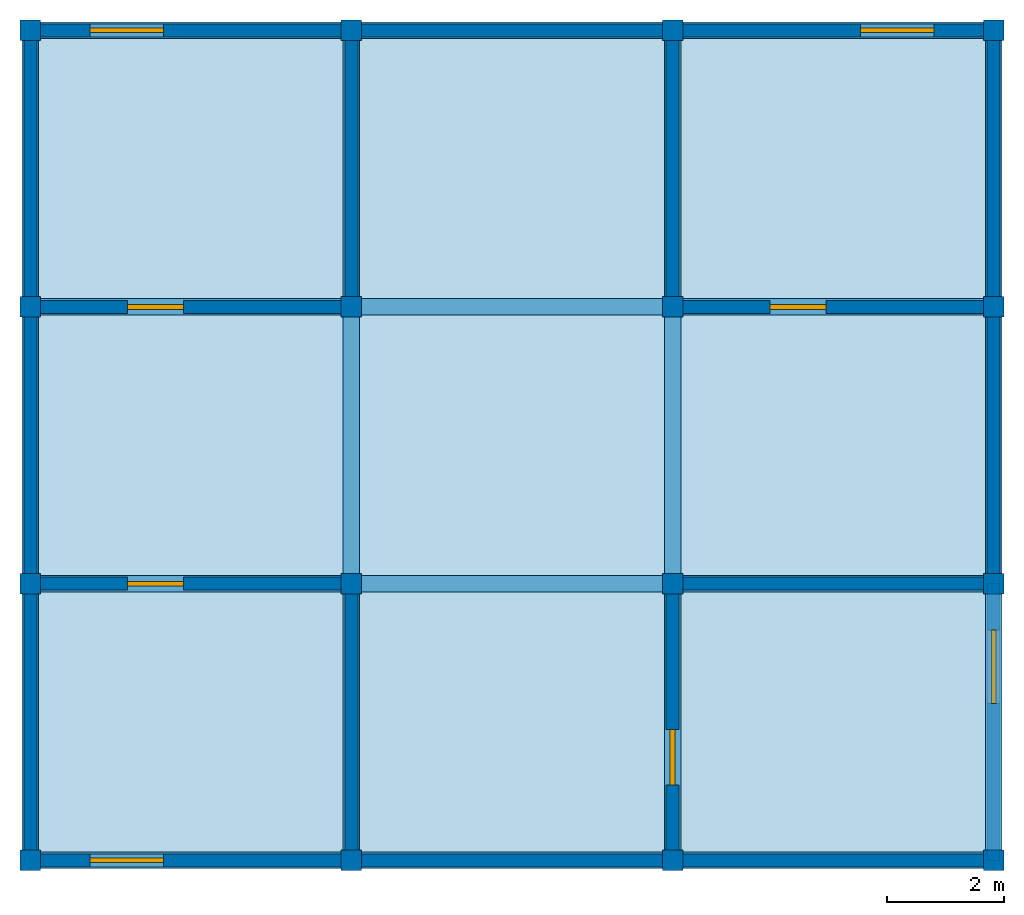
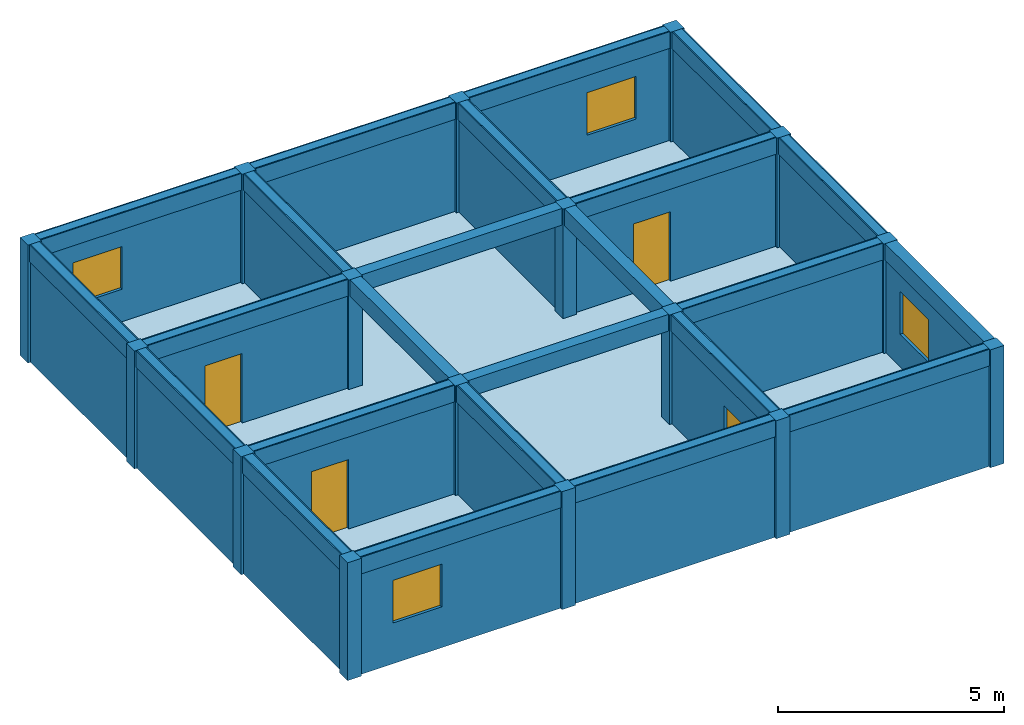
# One storey: 24 beams, 20 walls, 16 columns, 4 doors, 4 windows, 1 slab, 8 openings.
"""IFC4X3 building model written with IfcOpenShell, lengths in metres."""

from ifc_helpers import new_model, si_unit, frame, origin_with_axes, origin_2d, place, context, project, spatial, rectangle, extrude, material, element, fill, save


model = new_model("IFC4X3")

# Units and contexts
model_context = context("Model", 3, precision=1e-05, world=origin_with_axes())
ifc_project = project(units=[si_unit("LENGTHUNIT", "METRE"), si_unit("AREAUNIT", "SQUARE_METRE"), si_unit("VOLUMEUNIT", "CUBIC_METRE")], contexts=[model_context])

# Site, building, storey
site = spatial("IfcSite", under=ifc_project, Name="Antofagasta Parcel", CompositionType="ELEMENT")
building = spatial("IfcBuilding", under=site, Name="Nexo Block", CompositionType="ELEMENT")
storey = spatial("IfcBuildingStorey", under=building, Name="Level 7", CompositionType="ELEMENT", Elevation=19.09)

# Columns
ifc_material_1 = material(Name="Timber")
column_1_placement = place(None, frame((-8.2, -7.065, 19.085), z_axis=(0.0, 0.0, 1.0), x_axis=(1.0, 0.0, 0.0)))
element("IfcColumn", 1, at=column_1_placement, inside=storey, material=ifc_material_1, Name="Column 7.1", ObjectType="Facade Column", PredefinedType="NOTDEFINED", context=model_context, shape_type="SweptSolid", body=[
    extrude(rectangle(XDim=0.35, YDim=0.35, at=origin_2d()), origin_with_axes(), (0.0, 0.0, 1.0), 3.181),
])
column_2_placement = place(None, frame((-8.2, -2.355, 19.085), z_axis=(0.0, 0.0, 1.0), x_axis=(1.0, 0.0, 0.0)))
element("IfcColumn", 2, at=column_2_placement, inside=storey, material=ifc_material_1, Name="Column 7.2", ObjectType="Core Column", PredefinedType="USERDEFINED", context=model_context, shape_type="SweptSolid", body=[
    extrude(rectangle(XDim=0.35, YDim=0.35, at=origin_2d()), origin_with_axes(), (0.0, 0.0, 1.0), 3.181),
])
column_3_placement = place(None, frame((-8.2, 2.355, 19.085), z_axis=(0.0, 0.0, 1.0), x_axis=(1.0, 0.0, 0.0)))
element("IfcColumn", 3, at=column_3_placement, inside=storey, material=ifc_material_1, Name="Column 7.3", ObjectType="Facade Column", PredefinedType="USERDEFINED", context=model_context, shape_type="SweptSolid", body=[
    extrude(rectangle(XDim=0.35, YDim=0.35, at=origin_2d()), origin_with_axes(), (0.0, 0.0, 1.0), 3.181),
])
column_4_placement = place(None, frame((-8.2, 7.065, 19.085), z_axis=(0.0, 0.0, 1.0), x_axis=(1.0, 0.0, 0.0)))
element("IfcColumn", 4, at=column_4_placement, inside=storey, material=ifc_material_1, Name="Column 7.4", ObjectType="Corner Column", PredefinedType="NOTDEFINED", context=model_context, shape_type="SweptSolid", body=[
    extrude(rectangle(XDim=0.35, YDim=0.35, at=origin_2d()), origin_with_axes(), (0.0, 0.0, 1.0), 3.181),
])
column_5_placement = place(None, frame((-2.733, -7.065, 19.085), z_axis=(0.0, 0.0, 1.0), x_axis=(1.0, 0.0, 0.0)))
element("IfcColumn", 5, at=column_5_placement, inside=storey, material=ifc_material_1, Name="Column 7.5", ObjectType="Structural Column", PredefinedType="USERDEFINED", context=model_context, shape_type="SweptSolid", body=[
    extrude(rectangle(XDim=0.35, YDim=0.35, at=origin_2d()), origin_with_axes(), (0.0, 0.0, 1.0), 3.181),
])
column_6_placement = place(None, frame((-2.733, -2.355, 19.085), z_axis=(0.0, 0.0, 1.0), x_axis=(1.0, 0.0, 0.0)))
element("IfcColumn", 6, at=column_6_placement, inside=storey, material=ifc_material_1, Name="Column 7.6", ObjectType="Core Column", PredefinedType="PILASTER", context=model_context, shape_type="SweptSolid", body=[
    extrude(rectangle(XDim=0.35, YDim=0.35, at=origin_2d()), origin_with_axes(), (0.0, 0.0, 1.0), 3.181),
])
column_7_placement = place(None, frame((-2.733, 2.355, 19.085), z_axis=(0.0, 0.0, 1.0), x_axis=(1.0, 0.0, 0.0)))
element("IfcColumn", 7, at=column_7_placement, inside=storey, material=ifc_material_1, Name="Column 7.7", ObjectType="Corner Column", PredefinedType="COLUMN", context=model_context, shape_type="SweptSolid", body=[
    extrude(rectangle(XDim=0.35, YDim=0.35, at=origin_2d()), origin_with_axes(), (0.0, 0.0, 1.0), 3.181),
])
column_8_placement = place(None, frame((-2.733, 7.065, 19.085), z_axis=(0.0, 0.0, 1.0), x_axis=(1.0, 0.0, 0.0)))
element("IfcColumn", 8, at=column_8_placement, inside=storey, material=ifc_material_1, Name="Column 7.8", ObjectType="Structural Column", PredefinedType="COLUMN", context=model_context, shape_type="SweptSolid", body=[
    extrude(rectangle(XDim=0.35, YDim=0.35, at=origin_2d()), origin_with_axes(), (0.0, 0.0, 1.0), 3.181),
])
for number, where, z_axis, x_axis, name in (
    (9, (2.734, -7.065, 19.085), (0.0, 0.0, 1.0), (1.0, 0.0, 0.0), "Column 7.9"),
    (10, (2.734, -2.355, 19.085), (0.0, 0.0, 1.0), (1.0, 0.0, 0.0), "Column 7.10"),
    (11, (2.734, 2.355, 19.085), (0.0, 0.0, 1.0), (1.0, 0.0, 0.0), "Column 7.11"),
):
    element("IfcColumn", number, at=place(None, frame(where, z_axis=z_axis, x_axis=x_axis)), inside=storey, material=ifc_material_1, Name=name, ObjectType="Corner Column", PredefinedType="PILASTER", context=model_context, shape_type="SweptSolid", body=[
        extrude(rectangle(XDim=0.35, YDim=0.35, at=origin_2d()), origin_with_axes(), (0.0, 0.0, 1.0), 3.181),
    ])
column_9_placement = place(None, frame((2.734, 7.065, 19.085), z_axis=(0.0, 0.0, 1.0), x_axis=(1.0, 0.0, 0.0)))
element("IfcColumn", 12, at=column_9_placement, inside=storey, material=ifc_material_1, Name="Column 7.12", ObjectType="Core Column", PredefinedType="NOTDEFINED", context=model_context, shape_type="SweptSolid", body=[
    extrude(rectangle(XDim=0.35, YDim=0.35, at=origin_2d()), origin_with_axes(), (0.0, 0.0, 1.0), 3.181),
])
column_10_placement = place(None, frame((8.201, -7.065, 19.085), z_axis=(0.0, 0.0, 1.0), x_axis=(1.0, 0.0, 0.0)))
element("IfcColumn", 13, at=column_10_placement, inside=storey, material=ifc_material_1, Name="Column 7.13", ObjectType="Core Column", PredefinedType="USERDEFINED", context=model_context, shape_type="SweptSolid", body=[
    extrude(rectangle(XDim=0.35, YDim=0.35, at=origin_2d()), origin_with_axes(), (0.0, 0.0, 1.0), 3.181),
])
column_11_placement = place(None, frame((8.201, -2.355, 19.085), z_axis=(0.0, 0.0, 1.0), x_axis=(1.0, 0.0, 0.0)))
element("IfcColumn", 14, at=column_11_placement, inside=storey, material=ifc_material_1, Name="Column 7.14", ObjectType="Core Column", PredefinedType="COLUMN", context=model_context, shape_type="SweptSolid", body=[
    extrude(rectangle(XDim=0.35, YDim=0.35, at=origin_2d()), origin_with_axes(), (0.0, 0.0, 1.0), 3.181),
])
column_12_placement = place(None, frame((8.201, 2.355, 19.085), z_axis=(0.0, 0.0, 1.0), x_axis=(1.0, 0.0, 0.0)))
element("IfcColumn", 15, at=column_12_placement, inside=storey, material=ifc_material_1, Name="Column 7.15", ObjectType="Structural Column", PredefinedType="NOTDEFINED", context=model_context, shape_type="SweptSolid", body=[
    extrude(rectangle(XDim=0.35, YDim=0.35, at=origin_2d()), origin_with_axes(), (0.0, 0.0, 1.0), 3.181),
])
column_13_placement = place(None, frame((8.201, 7.065, 19.085), z_axis=(0.0, 0.0, 1.0), x_axis=(1.0, 0.0, 0.0)))
element("IfcColumn", 16, at=column_13_placement, inside=storey, material=ifc_material_1, Name="Column 7.16", ObjectType="Core Column", PredefinedType="COLUMN", context=model_context, shape_type="SweptSolid", body=[
    extrude(rectangle(XDim=0.35, YDim=0.35, at=origin_2d()), origin_with_axes(), (0.0, 0.0, 1.0), 3.181),
])

# Beams
beam_1_placement = place(None, frame((-5.466, -7.065, 21.816), z_axis=(0.0, 0.0, 1.0), x_axis=(1.0, 0.0, 0.0)))
element("IfcBeam", 17, at=beam_1_placement, inside=storey, material=ifc_material_1, Name="Beam 7.1", ObjectType="Rafter Beam", PredefinedType="SPANDREL", context=model_context, shape_type="SweptSolid", body=[
    extrude(rectangle(XDim=5.467, YDim=0.28, at=origin_2d()), origin_with_axes(), (0.0, 0.0, 1.0), 0.45),
])
beam_2_placement = place(None, frame((0.0, -7.065, 21.816), z_axis=(0.0, 0.0, 1.0), x_axis=(1.0, 0.0, 0.0)))
element("IfcBeam", 18, at=beam_2_placement, inside=storey, material=ifc_material_1, Name="Beam 7.2", ObjectType="Primary Beam", PredefinedType="SPANDREL", context=model_context, shape_type="SweptSolid", body=[
    extrude(rectangle(XDim=5.467, YDim=0.28, at=origin_2d()), origin_with_axes(), (0.0, 0.0, 1.0), 0.45),
])
beam_3_placement = place(None, frame((5.468, -7.065, 21.816), z_axis=(0.0, 0.0, 1.0), x_axis=(1.0, 0.0, 0.0)))
element("IfcBeam", 19, at=beam_3_placement, inside=storey, material=ifc_material_1, Name="Beam 7.3", ObjectType="Ridge Beam", PredefinedType="T_BEAM", context=model_context, shape_type="SweptSolid", body=[
    extrude(rectangle(XDim=5.467, YDim=0.28, at=origin_2d()), origin_with_axes(), (0.0, 0.0, 1.0), 0.45),
])
beam_4_placement = place(None, frame((-5.466, -2.355, 21.816), z_axis=(0.0, 0.0, 1.0), x_axis=(1.0, 0.0, 0.0)))
element("IfcBeam", 20, at=beam_4_placement, inside=storey, material=ifc_material_1, Name="Beam 7.4", ObjectType="Primary Beam", PredefinedType="HOLLOWCORE", context=model_context, shape_type="SweptSolid", body=[
    extrude(rectangle(XDim=5.467, YDim=0.28, at=origin_2d()), origin_with_axes(), (0.0, 0.0, 1.0), 0.45),
])
beam_5_placement = place(None, frame((0.0, -2.355, 21.816), z_axis=(0.0, 0.0, 1.0), x_axis=(1.0, 0.0, 0.0)))
element("IfcBeam", 21, at=beam_5_placement, inside=storey, material=ifc_material_1, Name="Beam 7.5", ObjectType="Transfer Beam", PredefinedType="SPANDREL", context=model_context, shape_type="SweptSolid", body=[
    extrude(rectangle(XDim=5.467, YDim=0.28, at=origin_2d()), origin_with_axes(), (0.0, 0.0, 1.0), 0.45),
])
beam_6_placement = place(None, frame((5.468, -2.355, 21.816), z_axis=(0.0, 0.0, 1.0), x_axis=(1.0, 0.0, 0.0)))
element("IfcBeam", 22, at=beam_6_placement, inside=storey, material=ifc_material_1, Name="Beam 7.6", ObjectType="Ridge Beam", PredefinedType="HOLLOWCORE", context=model_context, shape_type="SweptSolid", body=[
    extrude(rectangle(XDim=5.467, YDim=0.28, at=origin_2d()), origin_with_axes(), (0.0, 0.0, 1.0), 0.45),
])
beam_7_placement = place(None, frame((-5.466, 2.355, 21.816), z_axis=(0.0, 0.0, 1.0), x_axis=(1.0, 0.0, 0.0)))
element("IfcBeam", 23, at=beam_7_placement, inside=storey, material=ifc_material_1, Name="Beam 7.7", ObjectType="Transfer Beam", PredefinedType="JOIST", context=model_context, shape_type="SweptSolid", body=[
    extrude(rectangle(XDim=5.467, YDim=0.28, at=origin_2d()), origin_with_axes(), (0.0, 0.0, 1.0), 0.45),
])
beam_8_placement = place(None, frame((0.0, 2.355, 21.816), z_axis=(0.0, 0.0, 1.0), x_axis=(1.0, 0.0, 0.0)))
element("IfcBeam", 24, at=beam_8_placement, inside=storey, material=ifc_material_1, Name="Beam 7.8", ObjectType="Primary Beam", PredefinedType="USERDEFINED", context=model_context, shape_type="SweptSolid", body=[
    extrude(rectangle(XDim=5.467, YDim=0.28, at=origin_2d()), origin_with_axes(), (0.0, 0.0, 1.0), 0.45),
])
beam_9_placement = place(None, frame((5.468, 2.355, 21.816), z_axis=(0.0, 0.0, 1.0), x_axis=(1.0, 0.0, 0.0)))
element("IfcBeam", 25, at=beam_9_placement, inside=storey, material=ifc_material_1, Name="Beam 7.9", ObjectType="Primary Beam", PredefinedType="SPANDREL", context=model_context, shape_type="SweptSolid", body=[
    extrude(rectangle(XDim=5.467, YDim=0.28, at=origin_2d()), origin_with_axes(), (0.0, 0.0, 1.0), 0.45),
])
beam_10_placement = place(None, frame((-5.466, 7.065, 21.816), z_axis=(0.0, 0.0, 1.0), x_axis=(1.0, 0.0, 0.0)))
element("IfcBeam", 26, at=beam_10_placement, inside=storey, material=ifc_material_1, Name="Beam 7.10", ObjectType="Primary Beam", PredefinedType="T_BEAM", context=model_context, shape_type="SweptSolid", body=[
    extrude(rectangle(XDim=5.467, YDim=0.28, at=origin_2d()), origin_with_axes(), (0.0, 0.0, 1.0), 0.45),
])
beam_11_placement = place(None, frame((0.0, 7.065, 21.816), z_axis=(0.0, 0.0, 1.0), x_axis=(1.0, 0.0, 0.0)))
element("IfcBeam", 27, at=beam_11_placement, inside=storey, material=ifc_material_1, Name="Beam 7.11", ObjectType="Transfer Beam", PredefinedType="NOTDEFINED", context=model_context, shape_type="SweptSolid", body=[
    extrude(rectangle(XDim=5.467, YDim=0.28, at=origin_2d()), origin_with_axes(), (0.0, 0.0, 1.0), 0.45),
])
beam_12_placement = place(None, frame((5.468, 7.065, 21.816), z_axis=(0.0, 0.0, 1.0), x_axis=(1.0, 0.0, 0.0)))
element("IfcBeam", 28, at=beam_12_placement, inside=storey, material=ifc_material_1, Name="Beam 7.12", ObjectType="Rafter Beam", PredefinedType="HOLLOWCORE", context=model_context, shape_type="SweptSolid", body=[
    extrude(rectangle(XDim=5.467, YDim=0.28, at=origin_2d()), origin_with_axes(), (0.0, 0.0, 1.0), 0.45),
])
beam_13_placement = place(None, frame((-8.2, -4.71, 21.816), z_axis=(0.0, 0.0, 1.0), x_axis=(0.0, 1.0, 0.0)))
element("IfcBeam", 29, at=beam_13_placement, inside=storey, material=ifc_material_1, Name="Beam 7.13", ObjectType="Secondary Beam", PredefinedType="NOTDEFINED", context=model_context, shape_type="SweptSolid", body=[
    extrude(rectangle(XDim=4.71, YDim=0.28, at=origin_2d()), origin_with_axes(), (0.0, 0.0, 1.0), 0.45),
])
beam_14_placement = place(None, frame((-8.2, 0.0, 21.816), z_axis=(0.0, 0.0, 1.0), x_axis=(0.0, 1.0, 0.0)))
element("IfcBeam", 30, at=beam_14_placement, inside=storey, material=ifc_material_1, Name="Beam 7.14", ObjectType="Primary Beam", PredefinedType="USERDEFINED", context=model_context, shape_type="SweptSolid", body=[
    extrude(rectangle(XDim=4.71, YDim=0.28, at=origin_2d()), origin_with_axes(), (0.0, 0.0, 1.0), 0.45),
])
beam_15_placement = place(None, frame((-8.2, 4.71, 21.816), z_axis=(0.0, 0.0, 1.0), x_axis=(0.0, 1.0, 0.0)))
element("IfcBeam", 31, at=beam_15_placement, inside=storey, material=ifc_material_1, Name="Beam 7.15", ObjectType="Ridge Beam", PredefinedType="NOTDEFINED", context=model_context, shape_type="SweptSolid", body=[
    extrude(rectangle(XDim=4.71, YDim=0.28, at=origin_2d()), origin_with_axes(), (0.0, 0.0, 1.0), 0.45),
])
beam_16_placement = place(None, frame((-2.733, -4.71, 21.816), z_axis=(0.0, 0.0, 1.0), x_axis=(0.0, 1.0, 0.0)))
element("IfcBeam", 32, at=beam_16_placement, inside=storey, material=ifc_material_1, Name="Beam 7.16", ObjectType="Ridge Beam", PredefinedType="SPANDREL", context=model_context, shape_type="SweptSolid", body=[
    extrude(rectangle(XDim=4.71, YDim=0.28, at=origin_2d()), origin_with_axes(), (0.0, 0.0, 1.0), 0.45),
])
beam_17_placement = place(None, frame((-2.733, 0.0, 21.816), z_axis=(0.0, 0.0, 1.0), x_axis=(0.0, 1.0, 0.0)))
element("IfcBeam", 33, at=beam_17_placement, inside=storey, material=ifc_material_1, Name="Beam 7.17", ObjectType="Transfer Beam", PredefinedType="LINTEL", context=model_context, shape_type="SweptSolid", body=[
    extrude(rectangle(XDim=4.71, YDim=0.28, at=origin_2d()), origin_with_axes(), (0.0, 0.0, 1.0), 0.45),
])
beam_18_placement = place(None, frame((-2.733, 4.71, 21.816), z_axis=(0.0, 0.0, 1.0), x_axis=(0.0, 1.0, 0.0)))
element("IfcBeam", 34, at=beam_18_placement, inside=storey, material=ifc_material_1, Name="Beam 7.18", ObjectType="Primary Beam", PredefinedType="BEAM", context=model_context, shape_type="SweptSolid", body=[
    extrude(rectangle(XDim=4.71, YDim=0.28, at=origin_2d()), origin_with_axes(), (0.0, 0.0, 1.0), 0.45),
])
beam_19_placement = place(None, frame((2.734, -4.71, 21.816), z_axis=(0.0, 0.0, 1.0), x_axis=(0.0, 1.0, 0.0)))
element("IfcBeam", 35, at=beam_19_placement, inside=storey, material=ifc_material_1, Name="Beam 7.19", ObjectType="Primary Beam", PredefinedType="HOLLOWCORE", context=model_context, shape_type="SweptSolid", body=[
    extrude(rectangle(XDim=4.71, YDim=0.28, at=origin_2d()), origin_with_axes(), (0.0, 0.0, 1.0), 0.45),
])
beam_20_placement = place(None, frame((2.734, 0.0, 21.816), z_axis=(0.0, 0.0, 1.0), x_axis=(0.0, 1.0, 0.0)))
element("IfcBeam", 36, at=beam_20_placement, inside=storey, material=ifc_material_1, Name="Beam 7.20", ObjectType="Ridge Beam", PredefinedType="NOTDEFINED", context=model_context, shape_type="SweptSolid", body=[
    extrude(rectangle(XDim=4.71, YDim=0.28, at=origin_2d()), origin_with_axes(), (0.0, 0.0, 1.0), 0.45),
])
beam_21_placement = place(None, frame((2.734, 4.71, 21.816), z_axis=(0.0, 0.0, 1.0), x_axis=(0.0, 1.0, 0.0)))
element("IfcBeam", 37, at=beam_21_placement, inside=storey, material=ifc_material_1, Name="Beam 7.21", ObjectType="Primary Beam", PredefinedType="T_BEAM", context=model_context, shape_type="SweptSolid", body=[
    extrude(rectangle(XDim=4.71, YDim=0.28, at=origin_2d()), origin_with_axes(), (0.0, 0.0, 1.0), 0.45),
])
beam_22_placement = place(None, frame((8.201, -4.71, 21.816), z_axis=(0.0, 0.0, 1.0), x_axis=(0.0, 1.0, 0.0)))
element("IfcBeam", 38, at=beam_22_placement, inside=storey, material=ifc_material_1, Name="Beam 7.22", ObjectType="Rafter Beam", PredefinedType="JOIST", context=model_context, shape_type="SweptSolid", body=[
    extrude(rectangle(XDim=4.71, YDim=0.28, at=origin_2d()), origin_with_axes(), (0.0, 0.0, 1.0), 0.45),
])
beam_23_placement = place(None, frame((8.201, 0.0, 21.816), z_axis=(0.0, 0.0, 1.0), x_axis=(0.0, 1.0, 0.0)))
element("IfcBeam", 39, at=beam_23_placement, inside=storey, material=ifc_material_1, Name="Beam 7.23", ObjectType="Rafter Beam", PredefinedType="NOTDEFINED", context=model_context, shape_type="SweptSolid", body=[
    extrude(rectangle(XDim=4.71, YDim=0.28, at=origin_2d()), origin_with_axes(), (0.0, 0.0, 1.0), 0.45),
])
beam_24_placement = place(None, frame((8.201, 4.71, 21.816), z_axis=(0.0, 0.0, 1.0), x_axis=(0.0, 1.0, 0.0)))
element("IfcBeam", 40, at=beam_24_placement, inside=storey, material=ifc_material_1, Name="Beam 7.24", ObjectType="Primary Beam", PredefinedType="LINTEL", context=model_context, shape_type="SweptSolid", body=[
    extrude(rectangle(XDim=4.71, YDim=0.28, at=origin_2d()), origin_with_axes(), (0.0, 0.0, 1.0), 0.45),
])

# Slab
slab_placement = place(None, frame((0.0, 0.0, 19.09), z_axis=(0.0, 0.0, 1.0), x_axis=(1.0, 0.0, 0.0)))
element("IfcSlab", 41, at=slab_placement, inside=storey, material=ifc_material_1, Name="Slab 7", ObjectType="Floor Slab", PredefinedType="FLOOR", context=model_context, shape_type="SweptSolid", body=[
    extrude(rectangle(XDim=16.4, YDim=14.13, at=origin_2d()), origin_with_axes(), (0.0, 0.0, 1.0), 0.22),
])

# Wall, opening, door
ifc_material_2 = material(Name="CLT")
wall_1_placement = place(None, frame((-5.466, -2.355, 19.085), z_axis=(0.0, 0.0, 1.0), x_axis=(1.0, 0.0, 0.0)))
wall_1 = element("IfcWall", 42, at=wall_1_placement, inside=storey, material=ifc_material_2, Name="Wall 7.1", ObjectType="Corridor Partition", PredefinedType="POLYGONAL", context=model_context, shape_type="SweptSolid", body=[
    extrude(rectangle(XDim=5.467, YDim=0.221577, at=origin_2d()), origin_with_axes(), (0.0, 0.0, 1.0), 3.181),
])
opening_1_placement = place(None, frame((-6.066, -2.355, 19.085), z_axis=(0.0, 0.0, 1.0), x_axis=(1.0, 0.0, 0.0)))
opening_1 = element("IfcOpeningElement", 43, at=opening_1_placement, cuts=wall_1, Name="Door opening 7.1", ObjectType="Door Opening", PredefinedType="OPENING", context=model_context, shape_type="SweptSolid", body=[
    extrude(rectangle(XDim=0.95, YDim=0.301577, at=origin_2d()), origin_with_axes(), (0.0, 0.0, 1.0), 2.1),
])
door_1_placement = place(None, frame((-6.066, -2.355, 19.085), z_axis=(0.0, 0.0, 1.0), x_axis=(1.0, 0.0, 0.0)))
door_1 = element("IfcDoor", 44, at=door_1_placement, inside=storey, Name="Door 7.1", ObjectType="Interior Door", OverallHeight=2.1, OverallWidth=0.95, context=model_context, shape_type="SweptSolid", body=[
    extrude(rectangle(XDim=0.95, YDim=0.08, at=origin_2d()), origin_with_axes(), (0.0, 0.0, 1.0), 2.1),
])
fill(opening_1, door_1)

# Wall
ifc_material_3 = material(Name="Concrete")
wall_2_placement = place(None, frame((-2.7325, -4.71, 19.085), z_axis=(0.0, 0.0, 1.0), x_axis=(0.0, 1.0, 0.0)))
element("IfcWall", 45, at=wall_2_placement, inside=storey, material=ifc_material_3, Name="Wall 7.2", ObjectType="Corridor Partition", PredefinedType="ELEMENTEDWALL", context=model_context, shape_type="SweptSolid", body=[
    extrude(rectangle(XDim=4.71, YDim=0.221577, at=origin_2d()), origin_with_axes(), (0.0, 0.0, 1.0), 3.181),
])

# Wall, opening, window
wall_3_placement = place(None, frame((-5.466, -7.065, 19.085), z_axis=(0.0, 0.0, 1.0), x_axis=(1.0, 0.0, 0.0)))
wall_3 = element("IfcWall", 46, at=wall_3_placement, inside=storey, material=ifc_material_3, Name="Wall 7.3", ObjectType="Exterior Wall", PredefinedType="PLUMBINGWALL", context=model_context, shape_type="SweptSolid", body=[
    extrude(rectangle(XDim=5.467, YDim=0.221577, at=origin_2d()), origin_with_axes(), (0.0, 0.0, 1.0), 3.181),
])
opening_2_placement = place(None, frame((-6.559, -7.065, 20.185), z_axis=(0.0, 0.0, 1.0), x_axis=(1.0, 0.0, 0.0)))
opening_2 = element("IfcOpeningElement", 47, at=opening_2_placement, cuts=wall_3, Name="Window opening 7.2", ObjectType="Window Opening", PredefinedType="OPENING", context=model_context, shape_type="SweptSolid", body=[
    extrude(rectangle(XDim=1.25, YDim=0.301577, at=origin_2d()), origin_with_axes(), (0.0, 0.0, 1.0), 1.15),
])
window_1_placement = place(None, frame((-6.559, -7.065, 20.185), z_axis=(0.0, 0.0, 1.0), x_axis=(1.0, 0.0, 0.0)))
window_1 = element("IfcWindow", 48, at=window_1_placement, inside=storey, Name="Window 7.2", ObjectType="Louvre Window", OverallHeight=1.15, OverallWidth=1.25, context=model_context, shape_type="SweptSolid", body=[
    extrude(rectangle(XDim=1.25, YDim=0.08, at=origin_2d()), origin_with_axes(), (0.0, 0.0, 1.0), 1.15),
])
fill(opening_2, window_1)

# Wall
ifc_material_4 = material(Name="Brick")
wall_4_placement = place(None, frame((-8.1995, -4.71, 19.085), z_axis=(0.0, 0.0, 1.0), x_axis=(0.0, 1.0, 0.0)))
element("IfcWall", 49, at=wall_4_placement, inside=storey, material=ifc_material_4, Name="Wall 7.4", ObjectType="Exterior Wall", PredefinedType="PLUMBINGWALL", context=model_context, shape_type="SweptSolid", body=[
    extrude(rectangle(XDim=4.71, YDim=0.221577, at=origin_2d()), origin_with_axes(), (0.0, 0.0, 1.0), 3.181),
])

# Wall, opening, door
wall_5_placement = place(None, frame((2.7335, -4.71, 19.085), z_axis=(0.0, 0.0, 1.0), x_axis=(0.0, 1.0, 0.0)))
wall_5 = element("IfcWall", 50, at=wall_5_placement, inside=storey, material=ifc_material_4, Name="Wall 7.5", ObjectType="Corridor Partition", PredefinedType="PARAPET", context=model_context, shape_type="SweptSolid", body=[
    extrude(rectangle(XDim=4.71, YDim=0.221577, at=origin_2d()), origin_with_axes(), (0.0, 0.0, 1.0), 3.181),
])
opening_3_placement = place(None, frame((2.733, -5.31, 19.085), z_axis=(0.0, 0.0, 1.0), x_axis=(0.0, 1.0, 0.0)))
opening_3 = element("IfcOpeningElement", 51, at=opening_3_placement, cuts=wall_5, Name="Door opening 7.3", ObjectType="Door Opening", PredefinedType="OPENING", context=model_context, shape_type="SweptSolid", body=[
    extrude(rectangle(XDim=0.95, YDim=0.301577, at=origin_2d()), origin_with_axes(), (0.0, 0.0, 1.0), 2.1),
])
door_2_placement = place(None, frame((2.733, -5.31, 19.085), z_axis=(0.0, 0.0, 1.0), x_axis=(0.0, 1.0, 0.0)))
door_2 = element("IfcDoor", 52, at=door_2_placement, inside=storey, Name="Door 7.3", ObjectType="Interior Door", OverallHeight=2.1, OverallWidth=0.95, context=model_context, shape_type="SweptSolid", body=[
    extrude(rectangle(XDim=0.95, YDim=0.08, at=origin_2d()), origin_with_axes(), (0.0, 0.0, 1.0), 2.1),
])
fill(opening_3, door_2)

# Walls
wall_6_placement = place(None, frame((0.0, -7.065, 19.085), z_axis=(0.0, 0.0, 1.0), x_axis=(1.0, 0.0, 0.0)))
element("IfcWall", 53, at=wall_6_placement, inside=storey, material=ifc_material_3, Name="Wall 7.6", ObjectType="Exterior Wall", PredefinedType="MOVABLE", context=model_context, shape_type="SweptSolid", body=[
    extrude(rectangle(XDim=5.467, YDim=0.221577, at=origin_2d()), origin_with_axes(), (0.0, 0.0, 1.0), 3.181),
])
ifc_material_5 = material(Name="Gypsum")
wall_7_placement = place(None, frame((5.467, -2.355, 19.085), z_axis=(0.0, 0.0, 1.0), x_axis=(1.0, 0.0, 0.0)))
element("IfcWall", 54, at=wall_7_placement, inside=storey, material=ifc_material_5, Name="Wall 7.7", ObjectType="Corridor Partition", PredefinedType="PARAPET", context=model_context, shape_type="SweptSolid", body=[
    extrude(rectangle(XDim=5.467, YDim=0.221577, at=origin_2d()), origin_with_axes(), (0.0, 0.0, 1.0), 3.181),
])

# Wall, opening, window
wall_8_placement = place(None, frame((8.2005, -4.71, 19.085), z_axis=(0.0, 0.0, 1.0), x_axis=(0.0, 1.0, 0.0)))
wall_8 = element("IfcWall", 55, at=wall_8_placement, inside=storey, material=ifc_material_2, Name="Wall 7.8", ObjectType="Exterior Wall", PredefinedType="NOTDEFINED", context=model_context, shape_type="SweptSolid", body=[
    extrude(rectangle(XDim=4.71, YDim=0.221577, at=origin_2d()), origin_with_axes(), (0.0, 0.0, 1.0), 3.181),
])
opening_4_placement = place(None, frame((8.2, -3.768, 20.185), z_axis=(0.0, 0.0, 1.0), x_axis=(0.0, 1.0, 0.0)))
opening_4 = element("IfcOpeningElement", 56, at=opening_4_placement, cuts=wall_8, Name="Window opening 7.4", ObjectType="Window Opening", PredefinedType="OPENING", context=model_context, shape_type="SweptSolid", body=[
    extrude(rectangle(XDim=1.25, YDim=0.301577, at=origin_2d()), origin_with_axes(), (0.0, 0.0, 1.0), 1.15),
])
window_2_placement = place(None, frame((8.2, -3.768, 20.185), z_axis=(0.0, 0.0, 1.0), x_axis=(0.0, 1.0, 0.0)))
window_2 = element("IfcWindow", 57, at=window_2_placement, inside=storey, Name="Window 7.4", ObjectType="Operable Window", OverallHeight=1.15, OverallWidth=1.25, context=model_context, shape_type="SweptSolid", body=[
    extrude(rectangle(XDim=1.25, YDim=0.08, at=origin_2d()), origin_with_axes(), (0.0, 0.0, 1.0), 1.15),
])
fill(opening_4, window_2)

# Wall
wall_9_placement = place(None, frame((5.467, -7.065, 19.085), z_axis=(0.0, 0.0, 1.0), x_axis=(1.0, 0.0, 0.0)))
element("IfcWall", 58, at=wall_9_placement, inside=storey, material=ifc_material_5, Name="Wall 7.9", ObjectType="Exterior Wall", PredefinedType="USERDEFINED", context=model_context, shape_type="SweptSolid", body=[
    extrude(rectangle(XDim=5.467, YDim=0.221577, at=origin_2d()), origin_with_axes(), (0.0, 0.0, 1.0), 3.181),
])

# Wall, opening, door
wall_10_placement = place(None, frame((-5.466, 2.355, 19.085), z_axis=(0.0, 0.0, 1.0), x_axis=(1.0, 0.0, 0.0)))
wall_10 = element("IfcWall", 59, at=wall_10_placement, inside=storey, material=ifc_material_3, Name="Wall 7.10", ObjectType="Corridor Partition", PredefinedType="MOVABLE", context=model_context, shape_type="SweptSolid", body=[
    extrude(rectangle(XDim=5.467, YDim=0.221577, at=origin_2d()), origin_with_axes(), (0.0, 0.0, 1.0), 3.181),
])
opening_5_placement = place(None, frame((-6.066, 2.355, 19.085), z_axis=(0.0, 0.0, 1.0), x_axis=(1.0, 0.0, 0.0)))
opening_5 = element("IfcOpeningElement", 60, at=opening_5_placement, cuts=wall_10, Name="Door opening 7.5", ObjectType="Door Opening", PredefinedType="OPENING", context=model_context, shape_type="SweptSolid", body=[
    extrude(rectangle(XDim=0.95, YDim=0.301577, at=origin_2d()), origin_with_axes(), (0.0, 0.0, 1.0), 2.1),
])
door_3_placement = place(None, frame((-6.066, 2.355, 19.085), z_axis=(0.0, 0.0, 1.0), x_axis=(1.0, 0.0, 0.0)))
door_3 = element("IfcDoor", 61, at=door_3_placement, inside=storey, Name="Door 7.5", ObjectType="Fire Door", OverallHeight=2.1, OverallWidth=0.95, context=model_context, shape_type="SweptSolid", body=[
    extrude(rectangle(XDim=0.95, YDim=0.08, at=origin_2d()), origin_with_axes(), (0.0, 0.0, 1.0), 2.1),
])
fill(opening_5, door_3)

# Wall
wall_11_placement = place(None, frame((-8.1995, 0.0, 19.085), z_axis=(0.0, 0.0, 1.0), x_axis=(0.0, 1.0, 0.0)))
element("IfcWall", 62, at=wall_11_placement, inside=storey, material=ifc_material_3, Name="Wall 7.11", ObjectType="Exterior Wall", PredefinedType="USERDEFINED", context=model_context, shape_type="SweptSolid", body=[
    extrude(rectangle(XDim=4.71, YDim=0.221577, at=origin_2d()), origin_with_axes(), (0.0, 0.0, 1.0), 3.181),
])

# Wall, opening, door
wall_12_placement = place(None, frame((5.467, 2.355, 19.085), z_axis=(0.0, 0.0, 1.0), x_axis=(1.0, 0.0, 0.0)))
wall_12 = element("IfcWall", 63, at=wall_12_placement, inside=storey, material=ifc_material_2, Name="Wall 7.12", ObjectType="Corridor Partition", PredefinedType="NOTDEFINED", context=model_context, shape_type="SweptSolid", body=[
    extrude(rectangle(XDim=5.467, YDim=0.221577, at=origin_2d()), origin_with_axes(), (0.0, 0.0, 1.0), 3.181),
])
opening_6_placement = place(None, frame((4.867, 2.355, 19.085), z_axis=(0.0, 0.0, 1.0), x_axis=(1.0, 0.0, 0.0)))
opening_6 = element("IfcOpeningElement", 64, at=opening_6_placement, cuts=wall_12, Name="Door opening 7.7", ObjectType="Door Opening", PredefinedType="OPENING", context=model_context, shape_type="SweptSolid", body=[
    extrude(rectangle(XDim=0.95, YDim=0.301577, at=origin_2d()), origin_with_axes(), (0.0, 0.0, 1.0), 2.1),
])
door_4_placement = place(None, frame((4.867, 2.355, 19.085), z_axis=(0.0, 0.0, 1.0), x_axis=(1.0, 0.0, 0.0)))
door_4 = element("IfcDoor", 65, at=door_4_placement, inside=storey, Name="Door 7.7", ObjectType="Entry Door", OverallHeight=2.1, OverallWidth=0.95, context=model_context, shape_type="SweptSolid", body=[
    extrude(rectangle(XDim=0.95, YDim=0.08, at=origin_2d()), origin_with_axes(), (0.0, 0.0, 1.0), 2.1),
])
fill(opening_6, door_4)

# Wall
wall_13_placement = place(None, frame((8.2005, 0.0, 19.085), z_axis=(0.0, 0.0, 1.0), x_axis=(0.0, 1.0, 0.0)))
element("IfcWall", 66, at=wall_13_placement, inside=storey, material=ifc_material_3, Name="Wall 7.13", ObjectType="Exterior Wall", PredefinedType="MOVABLE", context=model_context, shape_type="SweptSolid", body=[
    extrude(rectangle(XDim=4.71, YDim=0.221577, at=origin_2d()), origin_with_axes(), (0.0, 0.0, 1.0), 3.181),
])

# Wall, opening, window
wall_14_placement = place(None, frame((-5.466, 7.065, 19.085), z_axis=(0.0, 0.0, 1.0), x_axis=(1.0, 0.0, 0.0)))
wall_14 = element("IfcWall", 67, at=wall_14_placement, inside=storey, material=ifc_material_2, Name="Wall 7.14", ObjectType="Exterior Wall", PredefinedType="USERDEFINED", context=model_context, shape_type="SweptSolid", body=[
    extrude(rectangle(XDim=5.467, YDim=0.221577, at=origin_2d()), origin_with_axes(), (0.0, 0.0, 1.0), 3.181),
])
opening_7_placement = place(None, frame((-6.559, 7.065, 20.185), z_axis=(0.0, 0.0, 1.0), x_axis=(1.0, 0.0, 0.0)))
opening_7 = element("IfcOpeningElement", 68, at=opening_7_placement, cuts=wall_14, Name="Window opening 7.6", ObjectType="Window Opening", PredefinedType="OPENING", context=model_context, shape_type="SweptSolid", body=[
    extrude(rectangle(XDim=1.25, YDim=0.301577, at=origin_2d()), origin_with_axes(), (0.0, 0.0, 1.0), 1.15),
])
window_3_placement = place(None, frame((-6.559, 7.065, 20.185), z_axis=(0.0, 0.0, 1.0), x_axis=(1.0, 0.0, 0.0)))
window_3 = element("IfcWindow", 69, at=window_3_placement, inside=storey, Name="Window 7.6", ObjectType="Curtain Window", OverallHeight=1.15, OverallWidth=1.25, context=model_context, shape_type="SweptSolid", body=[
    extrude(rectangle(XDim=1.25, YDim=0.08, at=origin_2d()), origin_with_axes(), (0.0, 0.0, 1.0), 1.15),
])
fill(opening_7, window_3)

# Walls
wall_15_placement = place(None, frame((-2.7325, 4.71, 19.085), z_axis=(0.0, 0.0, 1.0), x_axis=(0.0, 1.0, 0.0)))
element("IfcWall", 70, at=wall_15_placement, inside=storey, material=ifc_material_5, Name="Wall 7.15", ObjectType="Corridor Partition", PredefinedType="ELEMENTEDWALL", context=model_context, shape_type="SweptSolid", body=[
    extrude(rectangle(XDim=4.71, YDim=0.221577, at=origin_2d()), origin_with_axes(), (0.0, 0.0, 1.0), 3.181),
])
wall_16_placement = place(None, frame((-8.1995, 4.71, 19.085), z_axis=(0.0, 0.0, 1.0), x_axis=(0.0, 1.0, 0.0)))
element("IfcWall", 71, at=wall_16_placement, inside=storey, material=ifc_material_5, Name="Wall 7.16", ObjectType="Exterior Wall", PredefinedType="NOTDEFINED", context=model_context, shape_type="SweptSolid", body=[
    extrude(rectangle(XDim=4.71, YDim=0.221577, at=origin_2d()), origin_with_axes(), (0.0, 0.0, 1.0), 3.181),
])
wall_17_placement = place(None, frame((0.0, 7.065, 19.085), z_axis=(0.0, 0.0, 1.0), x_axis=(1.0, 0.0, 0.0)))
element("IfcWall", 72, at=wall_17_placement, inside=storey, material=ifc_material_5, Name="Wall 7.17", ObjectType="Exterior Wall", PredefinedType="PLUMBINGWALL", context=model_context, shape_type="SweptSolid", body=[
    extrude(rectangle(XDim=5.467, YDim=0.221577, at=origin_2d()), origin_with_axes(), (0.0, 0.0, 1.0), 3.181),
])
wall_18_placement = place(None, frame((2.7335, 4.71, 19.085), z_axis=(0.0, 0.0, 1.0), x_axis=(0.0, 1.0, 0.0)))
element("IfcWall", 73, at=wall_18_placement, inside=storey, material=ifc_material_5, Name="Wall 7.18", ObjectType="Corridor Partition", PredefinedType="PARTITIONING", context=model_context, shape_type="SweptSolid", body=[
    extrude(rectangle(XDim=4.71, YDim=0.221577, at=origin_2d()), origin_with_axes(), (0.0, 0.0, 1.0), 3.181),
])

# Wall, opening, window
wall_19_placement = place(None, frame((5.467, 7.065, 19.085), z_axis=(0.0, 0.0, 1.0), x_axis=(1.0, 0.0, 0.0)))
wall_19 = element("IfcWall", 74, at=wall_19_placement, inside=storey, material=ifc_material_2, Name="Wall 7.19", ObjectType="Exterior Wall", PredefinedType="PLUMBINGWALL", context=model_context, shape_type="SweptSolid", body=[
    extrude(rectangle(XDim=5.467, YDim=0.221577, at=origin_2d()), origin_with_axes(), (0.0, 0.0, 1.0), 3.181),
])
opening_8_placement = place(None, frame((6.56, 7.065, 20.185), z_axis=(0.0, 0.0, 1.0), x_axis=(1.0, 0.0, 0.0)))
opening_8 = element("IfcOpeningElement", 75, at=opening_8_placement, cuts=wall_19, Name="Window opening 7.8", ObjectType="Window Opening", PredefinedType="OPENING", context=model_context, shape_type="SweptSolid", body=[
    extrude(rectangle(XDim=1.25, YDim=0.301577, at=origin_2d()), origin_with_axes(), (0.0, 0.0, 1.0), 1.15),
])
window_4_placement = place(None, frame((6.56, 7.065, 20.185), z_axis=(0.0, 0.0, 1.0), x_axis=(1.0, 0.0, 0.0)))
window_4 = element("IfcWindow", 76, at=window_4_placement, inside=storey, Name="Window 7.8", ObjectType="Louvre Window", OverallHeight=1.15, OverallWidth=1.25, context=model_context, shape_type="SweptSolid", body=[
    extrude(rectangle(XDim=1.25, YDim=0.08, at=origin_2d()), origin_with_axes(), (0.0, 0.0, 1.0), 1.15),
])
fill(opening_8, window_4)

# Wall
wall_20_placement = place(None, frame((8.2005, 4.71, 19.085), z_axis=(0.0, 0.0, 1.0), x_axis=(0.0, 1.0, 0.0)))
element("IfcWall", 77, at=wall_20_placement, inside=storey, material=ifc_material_3, Name="Wall 7.20", ObjectType="Exterior Wall", PredefinedType="POLYGONAL", context=model_context, shape_type="SweptSolid", body=[
    extrude(rectangle(XDim=4.71, YDim=0.221577, at=origin_2d()), origin_with_axes(), (0.0, 0.0, 1.0), 3.181),
])

save(model, "model.ifc")
